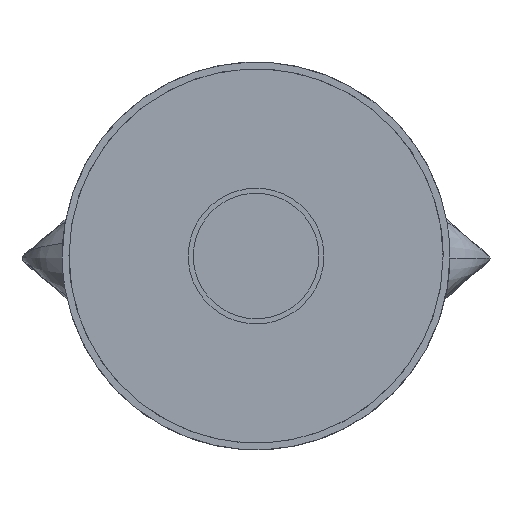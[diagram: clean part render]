
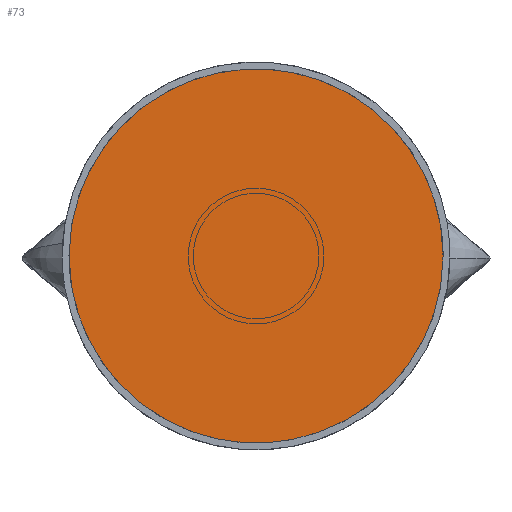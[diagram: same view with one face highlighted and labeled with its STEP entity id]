
A CAD part, top view. The second image highlights one B-rep face of the part: STEP entity #73.
In plain terms, the highlighted planar face has unit normal (0, 0, 1).
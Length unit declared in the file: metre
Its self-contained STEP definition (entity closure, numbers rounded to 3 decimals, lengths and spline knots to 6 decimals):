
#73=ADVANCED_FACE('',(#147),#1011,.T.);
#147=FACE_OUTER_BOUND('',#223,.T.);
#223=EDGE_LOOP('',(#342,#343));
#342=ORIENTED_EDGE('',*,*,#623,.F.);
#343=ORIENTED_EDGE('',*,*,#624,.F.);
#623=EDGE_CURVE('',#921,#922,#824,.T.);
#624=EDGE_CURVE('',#922,#921,#825,.T.);
#824=(
BOUNDED_CURVE()
B_SPLINE_CURVE(2,(#1373,#1374,#1375,#1376,#1377),.UNSPECIFIED.,.F.,.F.)
B_SPLINE_CURVE_WITH_KNOTS((3,2,3),(0.,89.77101,179.54202),
 .UNSPECIFIED.)
CURVE()
GEOMETRIC_REPRESENTATION_ITEM()
RATIONAL_B_SPLINE_CURVE((1.,0.707,1.,0.707,1.))
REPRESENTATION_ITEM('')
);
#825=(
BOUNDED_CURVE()
B_SPLINE_CURVE(2,(#1378,#1379,#1380,#1381,#1382),.UNSPECIFIED.,.F.,.F.)
B_SPLINE_CURVE_WITH_KNOTS((3,2,3),(179.54202,269.31303,359.08404),
 .UNSPECIFIED.)
CURVE()
GEOMETRIC_REPRESENTATION_ITEM()
RATIONAL_B_SPLINE_CURVE((1.,0.707,1.,0.707,1.))
REPRESENTATION_ITEM('')
);
#921=VERTEX_POINT('',#1369);
#922=VERTEX_POINT('',#1370);
#1011=PLANE('',#1121);
#1121=AXIS2_PLACEMENT_3D('',#1357,#1148,$);
#1148=DIRECTION('',(0.,0.,1.));
#1357=CARTESIAN_POINT('',(68.7,-68.7,0.));
#1369=CARTESIAN_POINT('',(57.15,0.,0.));
#1370=CARTESIAN_POINT('',(-57.15,0.,0.));
#1373=CARTESIAN_POINT('',(57.15,0.,0.));
#1374=CARTESIAN_POINT('',(57.15,-57.15,0.));
#1375=CARTESIAN_POINT('',(0.,-57.15,0.));
#1376=CARTESIAN_POINT('',(-57.15,-57.15,0.));
#1377=CARTESIAN_POINT('',(-57.15,0.,0.));
#1378=CARTESIAN_POINT('',(-57.15,0.,0.));
#1379=CARTESIAN_POINT('',(-57.15,57.15,0.));
#1380=CARTESIAN_POINT('',(0.,57.15,0.));
#1381=CARTESIAN_POINT('',(57.15,57.15,0.));
#1382=CARTESIAN_POINT('',(57.15,0.,0.));
